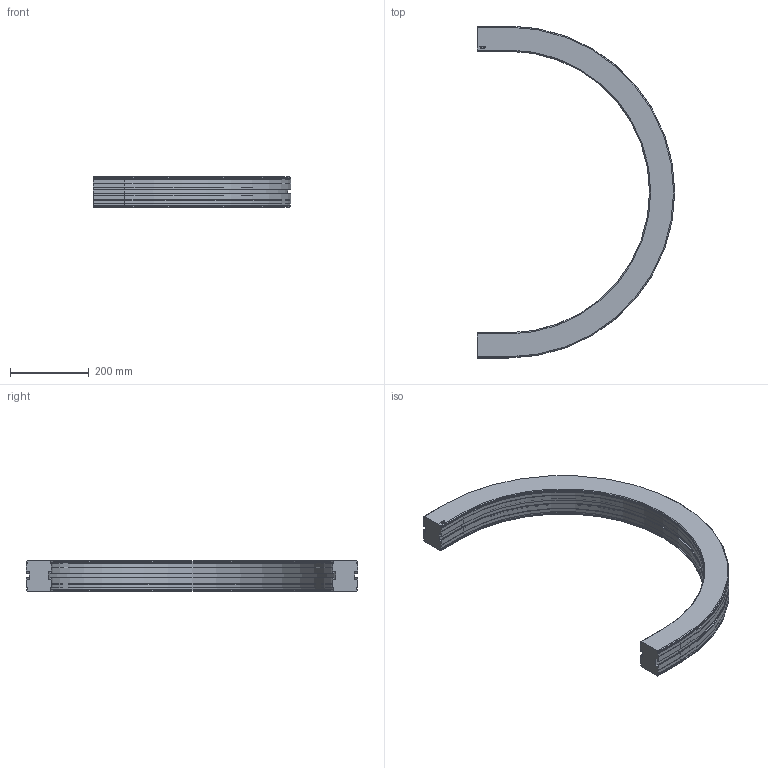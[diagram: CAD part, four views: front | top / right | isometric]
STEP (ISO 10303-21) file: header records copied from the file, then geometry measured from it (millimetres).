
FILE_DESCRIPTION((''),'2;1');
FILE_NAME('C:\Vault Klient\Projekt\Koncept konstruktion\Serie 620 Balk\620-5270.stp','2009-11-26T15:06:40',('Mathias'),(''),'Autodesk Inventor 2010','Autodesk Inventor 2010','');
FILE_SCHEMA(('AUTOMOTIVE_DESIGN { 1 0 10303 214 1 1 1 1 }'));
Length unit declared in the file: millimetre
Products named in the file (1): 620-5270
Bounding box: 501 x 842 x 78 mm (x, y, z)
Volume: 6427268.7 mm3; surface area: 507565.9 mm2
Topology: 1 solids, 1 shells, 169 faces, 446 edges, 284 vertices
Faces by surface type: plane 109, cylinder 30, bspline 14, cone 12, torus 4
Entity records: 5295 total; most frequent: CARTESIAN_POINT 1094, ORIENTED_EDGE 892, DIRECTION 802, EDGE_CURVE 446, VECTOR 346, LINE 346, VERTEX_POINT 284, AXIS2_PLACEMENT_3D 228
